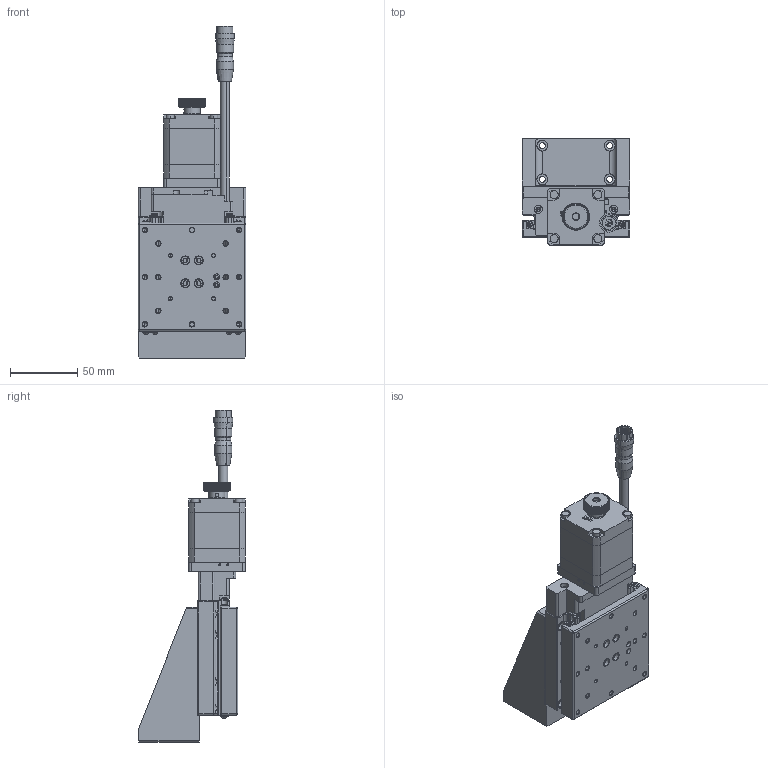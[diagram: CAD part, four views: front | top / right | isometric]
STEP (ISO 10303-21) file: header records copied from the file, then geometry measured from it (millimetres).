
FILE_DESCRIPTION (( 'STEP AP214' ), '1' );
FILE_NAME ('TZS8020B-L2-M42L.STEP', '2025-01-03T09:02:43', ( '' ), ( '' ), 'SwSTEP 2.0', 'SolidWorks 2020', '' );
FILE_SCHEMA (( 'AUTOMOTIVE_DESIGN' ));
Length unit declared in the file: millimetre
Products named in the file (3): Z粣80假蚾啣-80x80x95; TXS8020B-L2-M42L; TZS8020B-L2-M42L
Assembly tree (2 placements, depth 2):
  TZS8020B-L2-M42L
    TXS8020B-L2-M42L
    Z粣80假蚾啣-80x80x95
Bounding box: 80 x 79 x 246.5 mm (x, y, z)
Volume: 389644.3 mm3; surface area: 125422 mm2
Topology: 36 solids, 36 shells, 1741 faces, 4537 edges, 2837 vertices
Faces by surface type: plane 680, cylinder 598, cone 229, torus 188, sphere 32, bspline 14
Entity records: 58570 total; most frequent: CARTESIAN_POINT 15884, ORIENTED_EDGE 8834, DIRECTION 8826, EDGE_CURVE 4417, AXIS2_PLACEMENT_3D 3469, VERTEX_POINT 2837, EDGE_LOOP 1952, LINE 1888
